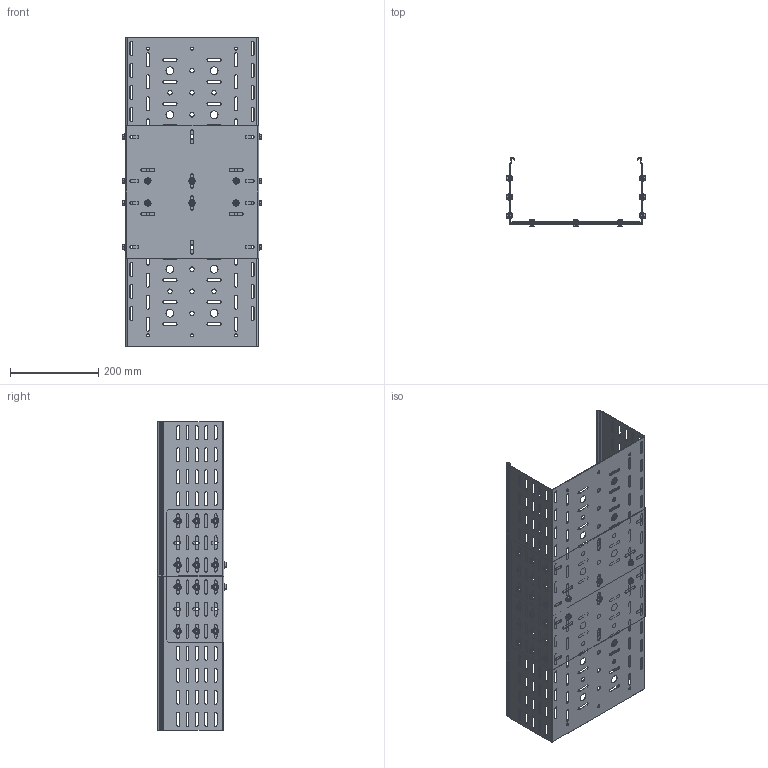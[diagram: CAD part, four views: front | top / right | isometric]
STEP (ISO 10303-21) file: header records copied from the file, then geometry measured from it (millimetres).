
FILE_DESCRIPTION (( 'STEP AP214' ), '1' );
FILE_NAME ('ﾑﾋﾁ+ﾏﾐ+ﾓﾋ(ﾏ)_150.STEP', '2016-10-06T20:47:56', ( '' ), ( '' ), 'SwSTEP 2.0', 'SolidWorks 2016', '' );
FILE_SCHEMA (( 'AUTOMOTIVE_DESIGN' ));
Length unit declared in the file: millimetre
Products named in the file (6): hex flange nut_din_Hexagon Flange Nut DIN 6923 - M6 - N; pan head cross recess screw_din_ISO 7045 - M6 x 10 - Z --- 10N; 060104-060604 玿; 082077-082096 ﾑﾋﾁ ﾓﾋ_150; ÓË(Ï)-300õÍõ550_3000.1,5.300.150; ﾑﾋﾁ+ﾏﾐ+ﾓﾋ(ﾏ)_150
Assembly tree (64 placements, depth 2):
  ﾑﾋﾁ+ﾏﾐ+ﾓﾋ(ﾏ)_150
    ÓË(Ï)-300õÍõ550_3000.1,5.300.150  x2
    082077-082096 ﾑﾋﾁ ﾓﾋ_150
    060104-060604 玿
    pan head cross recess screw_din_ISO 7045 - M6 x 10 - Z --- 10N  x30
    hex flange nut_din_Hexagon Flange Nut DIN 6923 - M6 - N  x30
Bounding box: 317 x 157 x 700 mm (x, y, z)
Volume: 814216.3 mm3; surface area: 1244961.2 mm2
Topology: 64 solids, 64 shells, 3522 faces, 9078 edges, 5654 vertices
Faces by surface type: plane 1472, cylinder 1090, cone 540, torus 180, bspline 180, sphere 60
Entity records: 34086 total; most frequent: CARTESIAN_POINT 6022, DIRECTION 5938, ORIENTED_EDGE 5636, EDGE_CURVE 2818, AXIS2_PLACEMENT_3D 2109, VERTEX_POINT 1839, LINE 1720, VECTOR 1720
